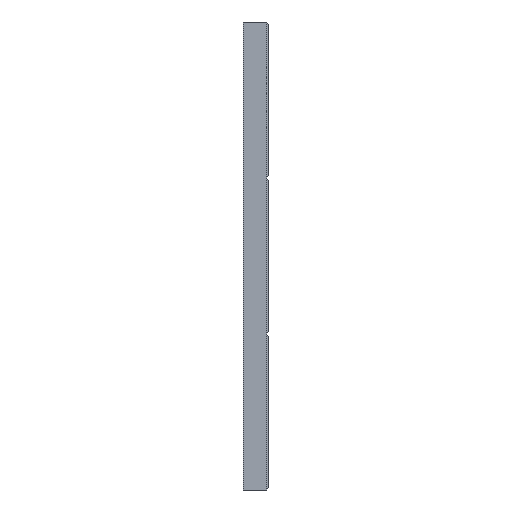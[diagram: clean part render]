
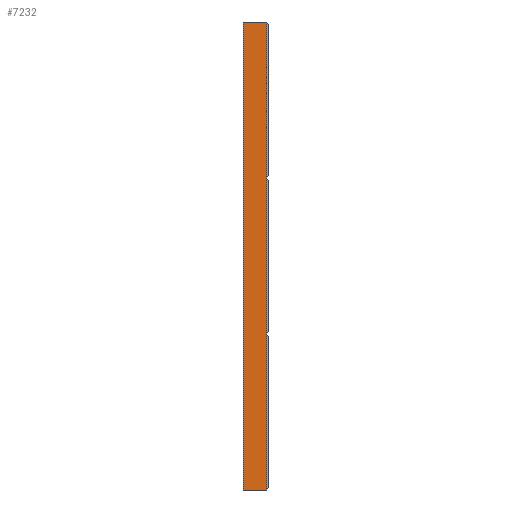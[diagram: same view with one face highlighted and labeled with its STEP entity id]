
A CAD part, front view. The second image highlights one B-rep face of the part: STEP entity #7232.
In plain terms, the highlighted planar face has unit normal (0, -1, 0).
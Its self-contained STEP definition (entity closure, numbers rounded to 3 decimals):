
#263=PLANE('',#7751);
#652=FACE_OUTER_BOUND('',#1108,.T.);
#1108=EDGE_LOOP('',(#6286,#6287,#6288,#6289,#6290,#6291));
#1798=LINE('',#14364,#2505);
#1870=LINE('',#15571,#2577);
#2086=LINE('',#19195,#2793);
#2088=LINE('',#19200,#2795);
#2105=LINE('',#19899,#2812);
#2109=LINE('',#19907,#2816);
#2505=VECTOR('',#8503,10.);
#2577=VECTOR('',#8669,10.);
#2793=VECTOR('',#9167,10.);
#2795=VECTOR('',#9171,10.);
#2812=VECTOR('',#9204,10.);
#2816=VECTOR('',#9216,10.);
#3305=VERTEX_POINT('',#14361);
#3306=VERTEX_POINT('',#14363);
#3359=VERTEX_POINT('',#15569);
#3519=VERTEX_POINT('',#19189);
#3521=VERTEX_POINT('',#19193);
#3523=VERTEX_POINT('',#19199);
#4080=EDGE_CURVE('',#3305,#3306,#1798,.T.);
#4175=EDGE_CURVE('',#3359,#3305,#1870,.T.);
#4460=EDGE_CURVE('',#3519,#3521,#2086,.T.);
#4462=EDGE_CURVE('',#3523,#3519,#2088,.T.);
#4492=EDGE_CURVE('',#3306,#3521,#2105,.T.);
#4496=EDGE_CURVE('',#3523,#3359,#2109,.T.);
#6286=ORIENTED_EDGE('',*,*,#4492,.F.);
#6287=ORIENTED_EDGE('',*,*,#4080,.F.);
#6288=ORIENTED_EDGE('',*,*,#4175,.F.);
#6289=ORIENTED_EDGE('',*,*,#4496,.F.);
#6290=ORIENTED_EDGE('',*,*,#4462,.T.);
#6291=ORIENTED_EDGE('',*,*,#4460,.T.);
#7232=ADVANCED_FACE('',(#652),#263,.T.);
#7751=AXIS2_PLACEMENT_3D('',#19906,#9214,#9215);
#8503=DIRECTION('',(0.,0.,-1.));
#8669=DIRECTION('',(0.,0.,-1.));
#9167=DIRECTION('',(1.,0.,0.));
#9171=DIRECTION('',(0.,0.,-1.));
#9204=DIRECTION('',(0.,0.,-1.));
#9214=DIRECTION('center_axis',(0.,-1.,0.));
#9215=DIRECTION('ref_axis',(0.,0.,1.));
#9216=DIRECTION('',(1.,0.,0.));
#14361=CARTESIAN_POINT('',(-0.5,-21.,57.622));
#14363=CARTESIAN_POINT('',(-0.5,-21.,21.249));
#14364=CARTESIAN_POINT('',(-0.5,-21.,30.311));
#15569=CARTESIAN_POINT('',(-0.5,-21.,93.995));
#15571=CARTESIAN_POINT('',(-0.5,-21.,66.684));
#19189=CARTESIAN_POINT('',(-6.,-21.,-15.124));
#19193=CARTESIAN_POINT('',(-0.5,-21.,-15.124));
#19195=CARTESIAN_POINT('',(-6.,-21.,-15.124));
#19199=CARTESIAN_POINT('',(-6.,-21.,93.995));
#19200=CARTESIAN_POINT('',(-6.,-21.,21.));
#19899=CARTESIAN_POINT('',(-0.5,-21.,-6.062));
#19906=CARTESIAN_POINT('Origin',(0.,-21.,-12.124));
#19907=CARTESIAN_POINT('',(-6.,-21.,93.995));
